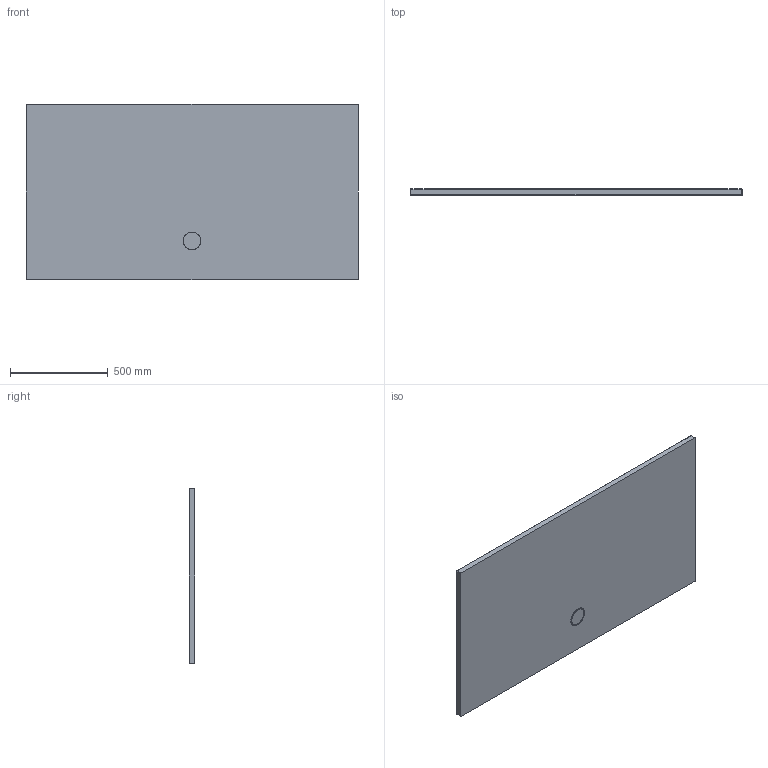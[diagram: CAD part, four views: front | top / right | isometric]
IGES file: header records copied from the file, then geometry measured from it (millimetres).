
Start section: SolidWorks IGES file using analytic representation for surfaces
Global section: file name: Y:\TKT\_PLIKI DLA ARCHITEKTÓW\02_AKRYL\BRODZIKI\seria SPACE MINERAL\IGS\B_M_90x170x1,5.IGS; native system: SolidWorks 2011; preprocessor: SolidWorks 2011; author: M.Szymanski; date: 180215.160622; units: millimetre
Bounding box: 1700 x 30 x 900 mm (x, y, z)
Surface area: 3228509.8 mm2 (no closed solid volume)
Topology: 0 solids, 0 shells, 61 faces, 727 edges, 724 vertices
Faces by surface type: bspline 39, revolution 22
